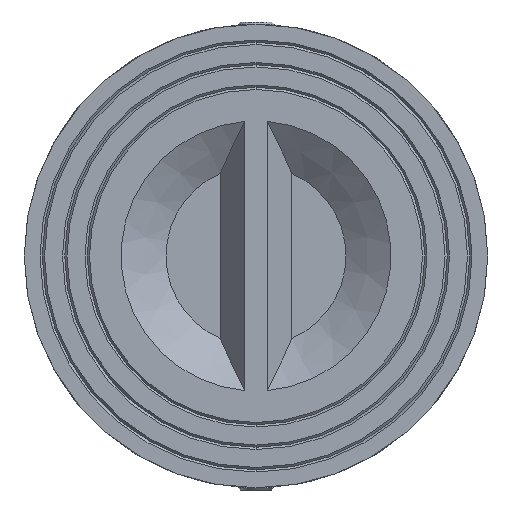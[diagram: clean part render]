
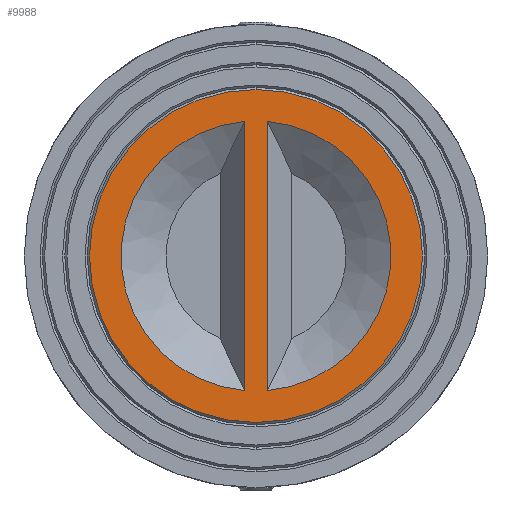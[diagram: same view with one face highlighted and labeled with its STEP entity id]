
A CAD part, front view. The second image highlights one B-rep face of the part: STEP entity #9988.
In plain terms, the highlighted planar face has unit normal (0, -1, 0).
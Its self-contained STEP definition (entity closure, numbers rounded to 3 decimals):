
#403 = ORIENTED_EDGE ( 'NONE', *, *, #10215, .F. ) ;
#428 = DIRECTION ( 'NONE',  ( 0., 0., -1. ) ) ;
#639 = DIRECTION ( 'NONE',  ( 0., 1., 0. ) ) ;
#790 = CARTESIAN_POINT ( 'NONE',  ( 3133.957, 1328.327, 0. ) ) ;
#795 = VERTEX_POINT ( 'NONE', #3302 ) ;
#809 = CARTESIAN_POINT ( 'NONE',  ( 3136.457, 1328.327, -29.896 ) ) ;
#919 = VERTEX_POINT ( 'NONE', #809 ) ;
#1095 = FACE_OUTER_BOUND ( 'NONE', #9342, .T. ) ;
#2510 = DIRECTION ( 'NONE',  ( 0., 0., 1. ) ) ;
#2536 = CARTESIAN_POINT ( 'NONE',  ( 3133.957, 1328.327, 37. ) ) ;
#2609 = AXIS2_PLACEMENT_3D ( 'NONE', #10406, #4522, #428 ) ;
#2802 = VERTEX_POINT ( 'NONE', #2536 ) ;
#3096 = ORIENTED_EDGE ( 'NONE', *, *, #6292, .F. ) ;
#3210 = CARTESIAN_POINT ( 'NONE',  ( 3131.457, 1328.327, 29.896 ) ) ;
#3302 = CARTESIAN_POINT ( 'NONE',  ( 3131.457, 1328.327, -29.896 ) ) ;
#3584 = AXIS2_PLACEMENT_3D ( 'NONE', #790, #7410, #4896 ) ;
#3659 = CARTESIAN_POINT ( 'NONE',  ( 3136.457, 1328.327, 29.896 ) ) ;
#3778 = AXIS2_PLACEMENT_3D ( 'NONE', #4129, #10798, #2510 ) ;
#3942 = DIRECTION ( 'NONE',  ( 0., 0., 1. ) ) ;
#3947 = VECTOR ( 'NONE', #6009, 1000. ) ;
#4071 = EDGE_CURVE ( 'NONE', #2802, #5091, #10206, .T. ) ;
#4129 = CARTESIAN_POINT ( 'NONE',  ( 3133.957, 1328.327, 0. ) ) ;
#4428 = EDGE_CURVE ( 'NONE', #919, #9506, #7589, .T. ) ;
#4509 = EDGE_CURVE ( 'NONE', #9506, #919, #5500, .T. ) ;
#4522 = DIRECTION ( 'NONE',  ( 0., -1., 0. ) ) ;
#4896 = DIRECTION ( 'NONE',  ( 0., 0., 1. ) ) ;
#5091 = VERTEX_POINT ( 'NONE', #8908 ) ;
#5194 = CARTESIAN_POINT ( 'NONE',  ( 3136.457, 1328.327, -30. ) ) ;
#5408 = FACE_BOUND ( 'NONE', #6860, .T. ) ;
#5500 = CIRCLE ( 'NONE', #3584, 30. ) ;
#5708 = DIRECTION ( 'NONE',  ( 0., 0., 1. ) ) ;
#6009 = DIRECTION ( 'NONE',  ( 0., 0., 1. ) ) ;
#6051 = CIRCLE ( 'NONE', #8524, 30. ) ;
#6292 = EDGE_CURVE ( 'NONE', #5091, #2802, #8820, .T. ) ;
#6860 = EDGE_LOOP ( 'NONE', ( #9408, #7055 ) ) ;
#7055 = ORIENTED_EDGE ( 'NONE', *, *, #4428, .T. ) ;
#7107 = AXIS2_PLACEMENT_3D ( 'NONE', #8026, #10486, #3942 ) ;
#7360 = CARTESIAN_POINT ( 'NONE',  ( 3131.457, 1328.327, -30. ) ) ;
#7410 = DIRECTION ( 'NONE',  ( 0., 1., 0. ) ) ;
#7589 = LINE ( 'NONE', #5194, #3947 ) ;
#7989 = VECTOR ( 'NONE', #5708, 1000. ) ;
#8026 = CARTESIAN_POINT ( 'NONE',  ( 3133.957, 1328.327, 0. ) ) ;
#8524 = AXIS2_PLACEMENT_3D ( 'NONE', #9742, #639, #9681 ) ;
#8820 = CIRCLE ( 'NONE', #7107, 37. ) ;
#8908 = CARTESIAN_POINT ( 'NONE',  ( 3133.957, 1328.327, -37. ) ) ;
#9021 = FACE_BOUND ( 'NONE', #9377, .T. ) ;
#9342 = EDGE_LOOP ( 'NONE', ( #10068, #3096 ) ) ;
#9377 = EDGE_LOOP ( 'NONE', ( #9481, #403 ) ) ;
#9408 = ORIENTED_EDGE ( 'NONE', *, *, #4509, .T. ) ;
#9481 = ORIENTED_EDGE ( 'NONE', *, *, #10558, .T. ) ;
#9506 = VERTEX_POINT ( 'NONE', #3659 ) ;
#9681 = DIRECTION ( 'NONE',  ( 0., 0., 1. ) ) ;
#9690 = LINE ( 'NONE', #7360, #7989 ) ;
#9742 = CARTESIAN_POINT ( 'NONE',  ( 3133.957, 1328.327, 0. ) ) ;
#9988 = ADVANCED_FACE ( 'NONE', ( #5408, #9021, #1095 ), #10367, .T. ) ;
#10068 = ORIENTED_EDGE ( 'NONE', *, *, #4071, .F. ) ;
#10182 = VERTEX_POINT ( 'NONE', #3210 ) ;
#10206 = CIRCLE ( 'NONE', #3778, 37. ) ;
#10215 = EDGE_CURVE ( 'NONE', #795, #10182, #9690, .T. ) ;
#10367 = PLANE ( 'NONE',  #2609 ) ;
#10406 = CARTESIAN_POINT ( 'NONE',  ( 0., 1328.327, 0. ) ) ;
#10486 = DIRECTION ( 'NONE',  ( 0., 1., 0. ) ) ;
#10558 = EDGE_CURVE ( 'NONE', #795, #10182, #6051, .T. ) ;
#10798 = DIRECTION ( 'NONE',  ( 0., 1., 0. ) ) ;
